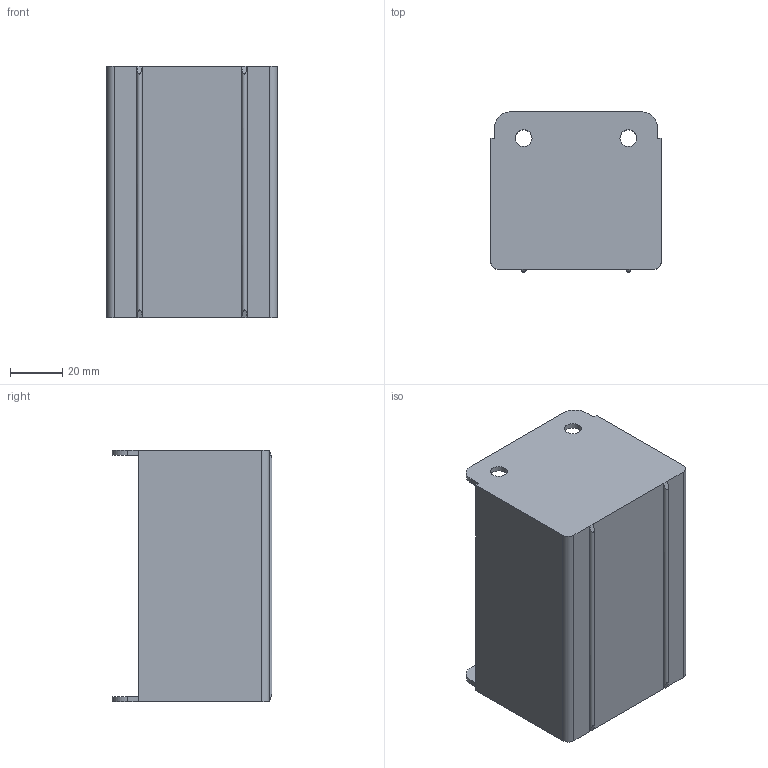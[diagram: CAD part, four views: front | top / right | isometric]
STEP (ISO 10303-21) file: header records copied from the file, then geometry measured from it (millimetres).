
FILE_DESCRIPTION(/* description */ (''),/* implementation_level */ '2;1');
FILE_NAME(/* name */ 'MGSS-FS-100.step',/* time_stamp */ '2023-06-01T15:16:01+09:00',/* author */ (''),/* organization */ (''),/* preprocessor_version */ 'ST-DEVELOPER v19.2',/* originating_system */ 'Autodesk Translation Framework v12.4.0.73',/* authorisation */ '');
FILE_SCHEMA (('AUTOMOTIVE_DESIGN { 1 0 10303 214 3 1 1 }'));
Length unit declared in the file: millimetre
Products named in the file (1): FS-100
Bounding box: 65 x 61 x 96 mm (x, y, z)
Volume: 48793.6 mm3; surface area: 61285.3 mm2
Topology: 2 solids, 2 shells, 52 faces, 132 edges, 84 vertices
Faces by surface type: plane 34, cylinder 18
Full cylindrical faces by diameter (mm): 6.5 x4
Entity records: 1611 total; most frequent: DIRECTION 274, CARTESIAN_POINT 269, ORIENTED_EDGE 264, EDGE_CURVE 132, LINE 96, VECTOR 96, AXIS2_PLACEMENT_3D 89, VERTEX_POINT 84
